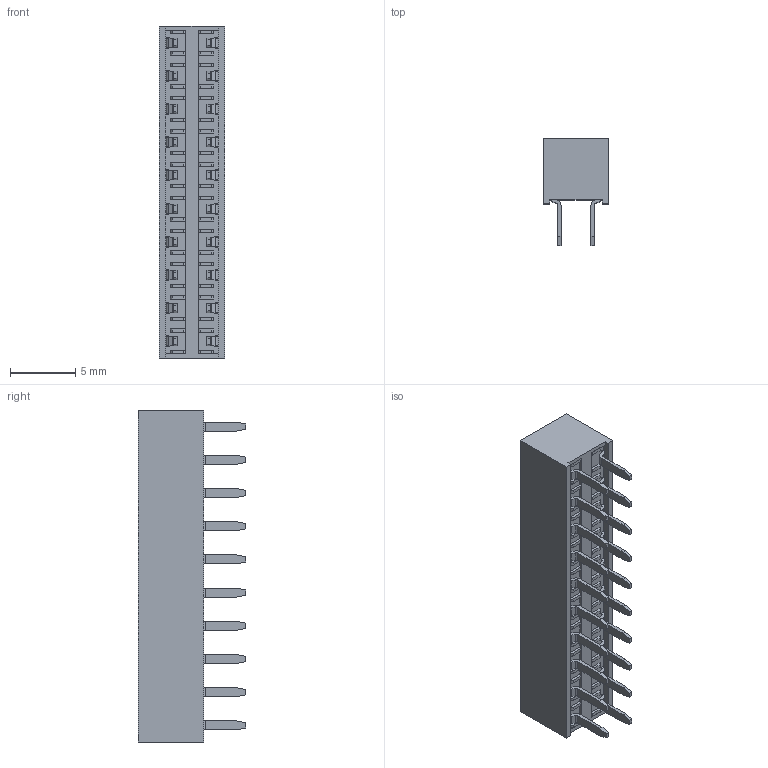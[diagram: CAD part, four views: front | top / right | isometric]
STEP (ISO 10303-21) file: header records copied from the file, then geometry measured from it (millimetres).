
FILE_DESCRIPTION (( 'STEP AP214' ), '1' );
FILE_NAME ('2041-2X15G00SA.STEP', '2025-08-13T11:43:31', ( '' ), ( '' ), 'SwSTEP 2.0', 'SolidWorks 2011', '' );
FILE_SCHEMA (( 'AUTOMOTIVE_DESIGN' ));
Length unit declared in the file: millimetre
Products named in the file (1): 2041-2X15G00SA
Bounding box: 5 x 8.2 x 25.4 mm (x, y, z)
Volume: 597.6 mm3; surface area: 763.5 mm2
Topology: 1 solids, 1 shells, 668 faces, 1878 edges, 1252 vertices
Faces by surface type: plane 428, cylinder 240
Entity records: 29744 total; most frequent: CARTESIAN_POINT 4939, ORIENTED_EDGE 3756, DIRECTION 3476, EDGE_CURVE 1878, LINE 1378, VECTOR 1378, VERTEX_POINT 1252, AXIS2_PLACEMENT_3D 1049
